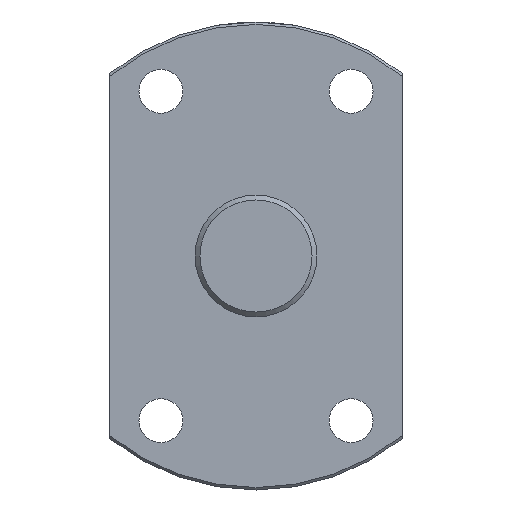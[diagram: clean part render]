
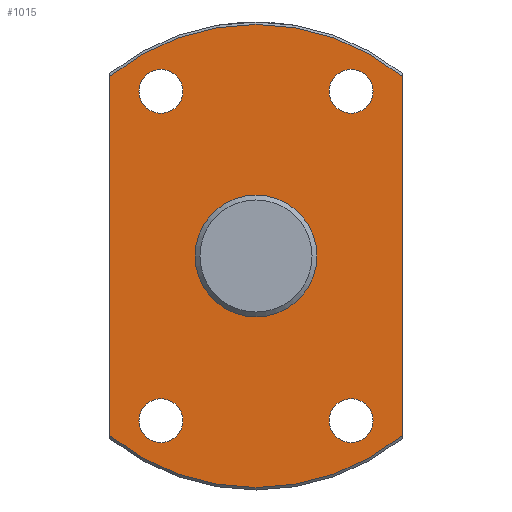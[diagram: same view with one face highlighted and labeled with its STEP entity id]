
A CAD part, left-side view. The second image highlights one B-rep face of the part: STEP entity #1015.
In plain terms, the highlighted planar face has unit normal (-1, 0, 0).
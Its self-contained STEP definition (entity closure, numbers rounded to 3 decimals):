
#315=CARTESIAN_POINT('',(444.465,-30.,36.827));
#316=VERTEX_POINT('',#315);
#341=CARTESIAN_POINT('',(444.465,30.,36.827));
#342=VERTEX_POINT('',#341);
#356=CARTESIAN_POINT('',(444.465,0.0,0.0));
#357=DIRECTION('',(1.0,0.0,0.0));
#358=DIRECTION('',(0.0,1.0,0.0));
#359=AXIS2_PLACEMENT_3D('',#356,#357,#358);
#360=CIRCLE('',#359,47.5);
#361=EDGE_CURVE('',#342,#316,#360,.T.);
#478=CARTESIAN_POINT('',(444.465,-30.,-36.827));
#479=VERTEX_POINT('',#478);
#480=CARTESIAN_POINT('',(444.465,-30.,36.827));
#481=DIRECTION('',(0.0,0.0,-1.0));
#482=VECTOR('',#481,73.655);
#483=LINE('',#480,#482);
#484=EDGE_CURVE('',#316,#479,#483,.T.);
#560=CARTESIAN_POINT('',(444.465,30.,-36.827));
#561=VERTEX_POINT('',#560);
#585=CARTESIAN_POINT('',(444.465,0.0,0.0));
#586=DIRECTION('',(1.0,0.0,0.0));
#587=DIRECTION('',(0.0,1.0,0.0));
#588=AXIS2_PLACEMENT_3D('',#585,#586,#587);
#589=CIRCLE('',#588,47.5);
#590=EDGE_CURVE('',#479,#561,#589,.T.);
#671=CARTESIAN_POINT('',(444.465,30.,-36.827));
#672=DIRECTION('',(0.0,0.0,1.0));
#673=VECTOR('',#672,73.655);
#674=LINE('',#671,#673);
#675=EDGE_CURVE('',#561,#342,#674,.T.);
#897=CARTESIAN_POINT('',(444.465,12.5,0.));
#898=VERTEX_POINT('',#897);
#899=CARTESIAN_POINT('',(444.465,0.0,0.0));
#900=DIRECTION('',(1.0,0.0,0.0));
#901=DIRECTION('',(0.0,-1.0,0.0));
#902=AXIS2_PLACEMENT_3D('',#899,#900,#901);
#903=CIRCLE('',#902,12.5);
#904=EDGE_CURVE('',#898,#898,#903,.T.);
#917=CARTESIAN_POINT('',(444.465,24.,-33.775));
#918=VERTEX_POINT('',#917);
#919=CARTESIAN_POINT('',(444.465,19.5,-33.775));
#920=DIRECTION('',(1.0,0.0,0.0));
#921=DIRECTION('',(0.0,1.0,0.0));
#922=AXIS2_PLACEMENT_3D('',#919,#920,#921);
#923=CIRCLE('',#922,4.5);
#924=EDGE_CURVE('',#918,#918,#923,.T.);
#937=CARTESIAN_POINT('',(444.465,-15.,33.775));
#938=VERTEX_POINT('',#937);
#939=CARTESIAN_POINT('',(444.465,-19.5,33.775));
#940=DIRECTION('',(1.0,0.0,0.0));
#941=DIRECTION('',(0.0,1.0,0.0));
#942=AXIS2_PLACEMENT_3D('',#939,#940,#941);
#943=CIRCLE('',#942,4.5);
#944=EDGE_CURVE('',#938,#938,#943,.T.);
#957=CARTESIAN_POINT('',(444.465,24.,33.775));
#958=VERTEX_POINT('',#957);
#959=CARTESIAN_POINT('',(444.465,19.5,33.775));
#960=DIRECTION('',(1.0,0.0,0.0));
#961=DIRECTION('',(0.0,1.0,0.0));
#962=AXIS2_PLACEMENT_3D('',#959,#960,#961);
#963=CIRCLE('',#962,4.5);
#964=EDGE_CURVE('',#958,#958,#963,.T.);
#977=CARTESIAN_POINT('',(444.465,-15.,-33.775));
#978=VERTEX_POINT('',#977);
#979=CARTESIAN_POINT('',(444.465,-19.5,-33.775));
#980=DIRECTION('',(1.0,0.0,0.0));
#981=DIRECTION('',(0.0,1.0,0.0));
#982=AXIS2_PLACEMENT_3D('',#979,#980,#981);
#983=CIRCLE('',#982,4.5);
#984=EDGE_CURVE('',#978,#978,#983,.T.);
#989=CARTESIAN_POINT('',(444.465,0.0,0.0));
#990=DIRECTION('',(-1.0,0.0,0.0));
#991=DIRECTION('',(0.0,0.0,1.0));
#992=AXIS2_PLACEMENT_3D('',#989,#990,#991);
#993=PLANE('',#992);
#994=ORIENTED_EDGE('',*,*,#361,.F.);
#995=ORIENTED_EDGE('',*,*,#675,.F.);
#996=ORIENTED_EDGE('',*,*,#590,.F.);
#997=ORIENTED_EDGE('',*,*,#484,.F.);
#998=EDGE_LOOP('',(#994,#995,#996,#997));
#999=FACE_OUTER_BOUND('',#998,.T.);
#1000=ORIENTED_EDGE('',*,*,#904,.T.);
#1001=EDGE_LOOP('',(#1000));
#1002=FACE_BOUND('',#1001,.T.);
#1003=ORIENTED_EDGE('',*,*,#924,.T.);
#1004=EDGE_LOOP('',(#1003));
#1005=FACE_BOUND('',#1004,.T.);
#1006=ORIENTED_EDGE('',*,*,#944,.T.);
#1007=EDGE_LOOP('',(#1006));
#1008=FACE_BOUND('',#1007,.T.);
#1009=ORIENTED_EDGE('',*,*,#964,.T.);
#1010=EDGE_LOOP('',(#1009));
#1011=FACE_BOUND('',#1010,.T.);
#1012=ORIENTED_EDGE('',*,*,#984,.T.);
#1013=EDGE_LOOP('',(#1012));
#1014=FACE_BOUND('',#1013,.T.);
#1015=ADVANCED_FACE('',(#999,#1002,#1005,#1008,#1011,#1014),#993,.T.);
